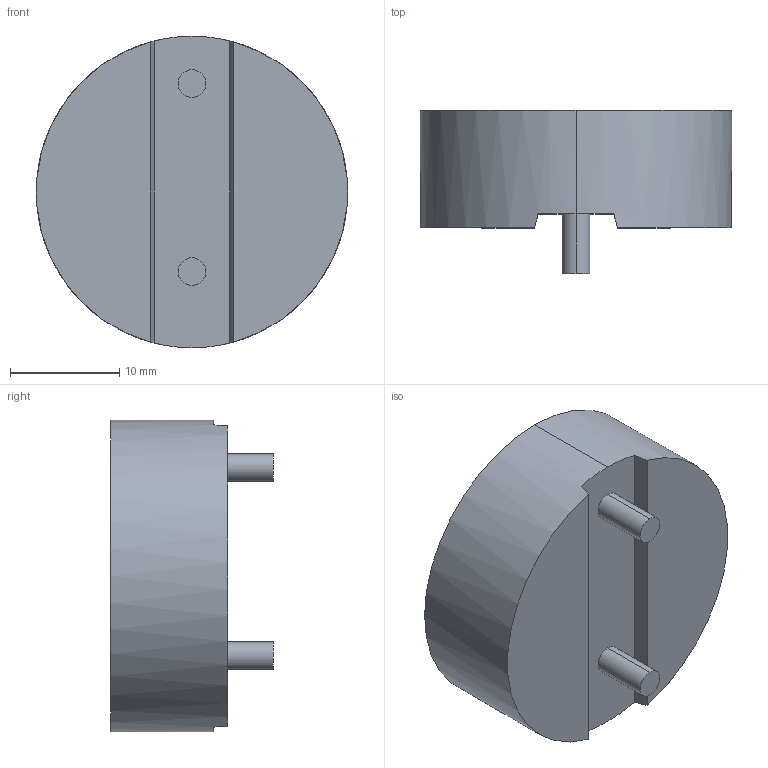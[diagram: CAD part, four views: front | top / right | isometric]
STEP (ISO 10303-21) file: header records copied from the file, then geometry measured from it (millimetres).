
FILE_DESCRIPTION (( 'STEP AP214' ), '1' );
FILE_NAME ('IHTH-1125KZ-5A 2.2uH.STEP', '2025-03-14T18:59:43', ( '' ), ( '' ), 'SwSTEP 2.0', 'SolidWorks 2024', '' );
FILE_SCHEMA (( 'AUTOMOTIVE_DESIGN' ));
Length unit declared in the file: inch
Products named in the file (1): IHTH-1125KZ-5A 2.2uH
Bounding box: 28.57 x 14.94 x 28.57 mm (x, y, z)
Volume: 6684 mm3; surface area: 2373 mm2
Topology: 1 solids, 1 shells, 195 faces, 510 edges, 340 vertices
Faces by surface type: plane 132, bspline 53, cylinder 10
Entity records: 9125 total; most frequent: CARTESIAN_POINT 4639, ORIENTED_EDGE 1020, DIRECTION 710, EDGE_CURVE 510, LINE 376, VECTOR 376, VERTEX_POINT 340, EDGE_LOOP 218
